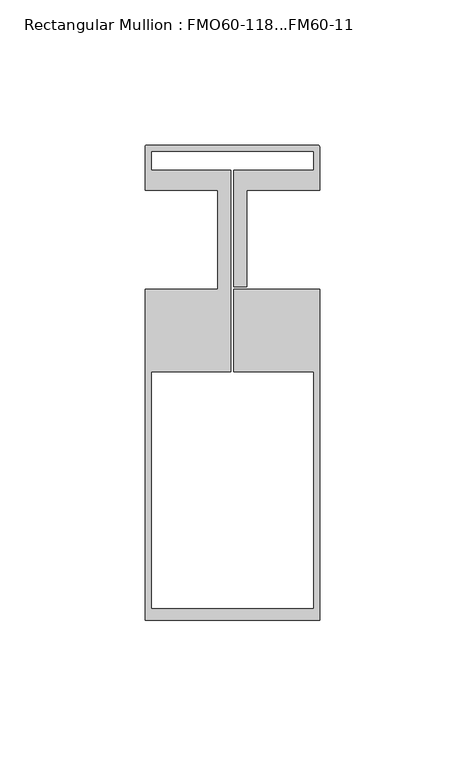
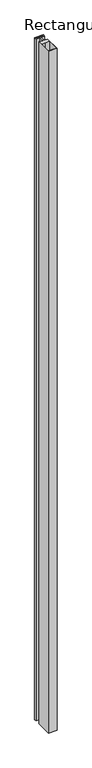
"""IFC4 building model written with IfcOpenShell, lengths in millimetres: member geometry, Rectangular Mullion : FMO60-118...FM60-11."""

from ifc_helpers import new_model, si_unit, point, frame, frame_2d, origin, place, context, project, spatial, polyline, circle_curve, trimmed, segment, composite_curve, outline, extrude, source, transform, mapped, element, save


def rectangular_mullion_fmo60_118_fm60_11_780ca703(model_context):
    return source(origin(), model_context, "Body", "SweptSolid", [
        extrude(outline(composite_curve([segment(trimmed(circle_curve(frame_2d((29.5, 32.0117899)), 0.5), [point((29.5, 32.5117899))], [point((30.0, 32.0117899))], False, "CARTESIAN"), True, "CONTINUOUS"), segment(polyline([(30.0, 32.0117899), (30.0, 17.0), (5.0, 17.0), (5.0, -16.2), (0.5, -16.2), (0.5, 23.8476589), (28.0000412, 23.8476589), (28.0000412, 30.5117899), (-28.0000412, 30.5117899), (-28.0000412, 23.8476589), (-0.5, 23.8476589), (-0.5, -45.5034642), (-28.0, -45.5034642), (-28.0, -127.009342), (28.0, -127.009342), (28.0, -45.5034642), (0.5, -45.5034642), (0.5, -17.0), (30.0, -17.0), (30.0, -131.009342), (-30.0, -131.009342), (-30.0, -17.0), (-5.0, -17.0), (-5.0, 17.0), (-30.0, 17.0), (-30.0, 32.0117899)]), True, "CONTINUOUS"), segment(trimmed(circle_curve(frame_2d((-29.5, 32.0117899)), 0.5), [point((-30.0, 32.0117899))], [point((-29.5, 32.5117899))], False, "CARTESIAN"), True, "CONTINUOUS"), segment(polyline([(-29.5, 32.5117899), (29.5, 32.5117899)]), True, "CONTINUOUS")], self_intersect=False)), frame((0.0, 0.0, -5000.0), z_axis=(0.0, 0.0, 1.0), x_axis=(1.0, 0.0, 0.0)), (0.0, 0.0, 1.0), 5000.0),
    ])


if __name__ == "__main__":
    model = new_model("IFC4")
    model_context = context("Model", 3, world=origin())
    ifc_project = project(units=[si_unit("LENGTHUNIT", "METRE", prefix="MILLI")], contexts=[model_context])
    site = spatial("IfcSite", under=ifc_project)
    building = spatial("IfcBuilding", under=site)
    placement = place(None, origin())
    rectangular_mullion_fmo60_118_fm60_11_shape = rectangular_mullion_fmo60_118_fm60_11_780ca703(model_context)
    element("IfcMember", 1, ObjectType="Rectangular Mullion : FMO60-118...FM60-11", at=placement, inside=building, context=model_context, shape_type="MappedRepresentation", body=[
        mapped(rectangular_mullion_fmo60_118_fm60_11_shape, transform((0.0, 0.0, 0.0), x_axis=(1.0, 0.0, 0.0), y_axis=(0.0, 1.0, 0.0), z_axis=(0.0, 0.0, 1.0))),
    ])
    save(model, "model.ifc")
